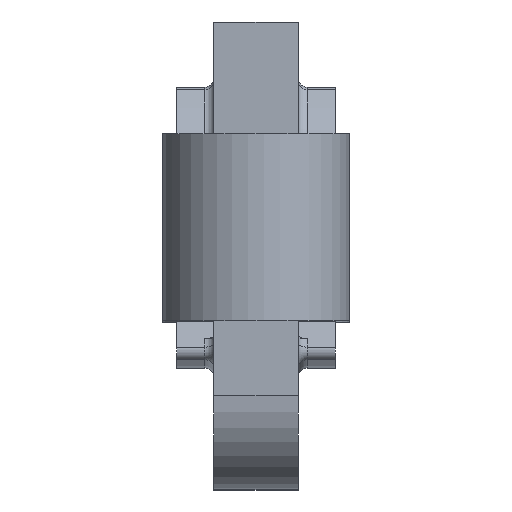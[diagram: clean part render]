
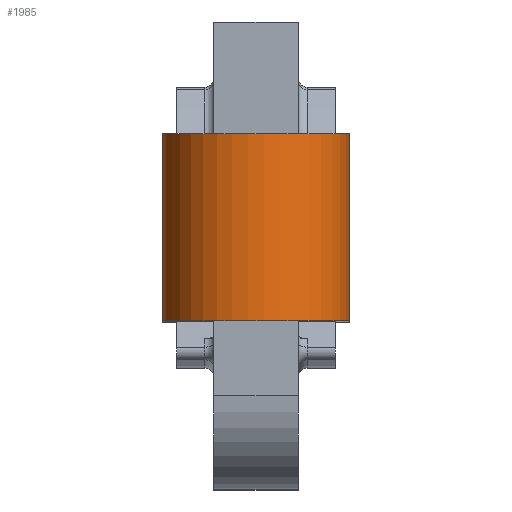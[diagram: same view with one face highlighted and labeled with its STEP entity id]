
A CAD part, top view. The second image highlights one B-rep face of the part: STEP entity #1985.
In plain terms, the highlighted cylindrical face has radius 5 mm (diameter 10 mm), a partial arc.
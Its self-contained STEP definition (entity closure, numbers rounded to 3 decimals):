
#345=DIRECTION('',(0.,-1.,0.));
#346=VECTOR('',#345,10.);
#347=CARTESIAN_POINT('',(-3.625,-6.,17.806));
#348=LINE('',#347,#346);
#349=CARTESIAN_POINT('',(0.,-6.,21.25));
#350=DIRECTION('',(0.,1.,0.));
#351=DIRECTION('',(-0.725,0.,-0.689));
#352=AXIS2_PLACEMENT_3D('',#349,#350,#351);
#354=DIRECTION('',(0.,1.,0.));
#355=VECTOR('',#354,10.);
#356=CARTESIAN_POINT('',(3.625,-16.,17.806));
#357=LINE('',#356,#355);
#358=CARTESIAN_POINT('',(0.,-16.,21.25));
#359=DIRECTION('',(0.,-1.,0.));
#360=DIRECTION('',(0.725,0.,-0.689));
#361=AXIS2_PLACEMENT_3D('',#358,#359,#360);
#1663=CARTESIAN_POINT('',(-3.625,-6.,17.806));
#1664=CARTESIAN_POINT('',(-3.625,-16.,17.806));
#1665=VERTEX_POINT('',#1663);
#1666=VERTEX_POINT('',#1664);
#1683=CARTESIAN_POINT('',(3.625,-16.,17.806));
#1684=CARTESIAN_POINT('',(3.625,-6.,17.806));
#1685=VERTEX_POINT('',#1683);
#1686=VERTEX_POINT('',#1684);
#1971=CARTESIAN_POINT('',(0.,0.,21.25));
#1972=DIRECTION('',(0.,1.,0.));
#1973=DIRECTION('',(0.,0.,1.));
#1974=AXIS2_PLACEMENT_3D('',#1971,#1972,#1973);
#1975=CYLINDRICAL_SURFACE('',#1974,5.);
#1977=ORIENTED_EDGE('',*,*,#1976,.F.);
#1979=ORIENTED_EDGE('',*,*,#1978,.T.);
#1981=ORIENTED_EDGE('',*,*,#1980,.F.);
#1982=ORIENTED_EDGE('',*,*,#1929,.T.);
#1983=EDGE_LOOP('',(#1977,#1979,#1981,#1982));
#1984=FACE_OUTER_BOUND('',#1983,.F.);
#1985=ADVANCED_FACE('',(#1984),#1975,.T.);
#353=CIRCLE('',#352,5.);
#362=CIRCLE('',#361,5.);
#1929=EDGE_CURVE('',#1685,#1666,#362,.T.);
#1976=EDGE_CURVE('',#1665,#1666,#348,.T.);
#1978=EDGE_CURVE('',#1665,#1686,#353,.T.);
#1980=EDGE_CURVE('',#1685,#1686,#357,.T.);
